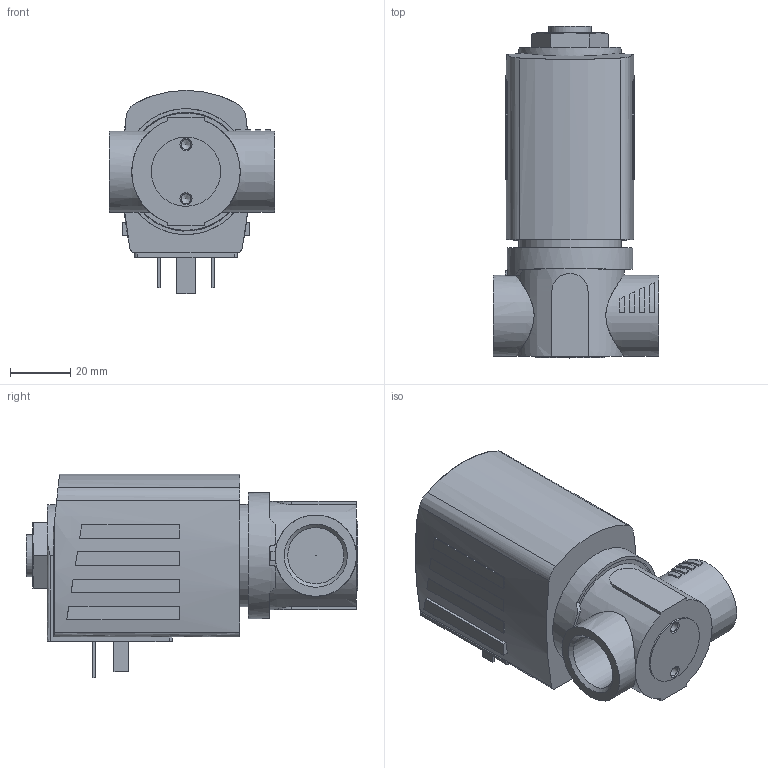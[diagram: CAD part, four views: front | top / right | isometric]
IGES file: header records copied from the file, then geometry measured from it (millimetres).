
Start section: Data from Parasolid IGES Translator 26.0.171, Copyright(c) 2006 Siemens PLM Software. All Rights Reserved.
Global section: file name: 6027-A-8-FKM___FKM-MS-G_1_2-42-024___DC.igs; native system: By Siemens PLM Incorporated; preprocessor: XPlus GENERIC/IGES 26.0.171; author: Noname; organization: Noname; date: 20240314.132635; units: millimetre
Bounding box: 55 x 110.2 x 67.5 mm (x, y, z)
Surface area: 29158.9 mm2 (no closed solid volume)
Topology: 0 solids, 0 shells, 173 faces, 860 edges, 842 vertices
Faces by surface type: extrusion 118, revolution 55
